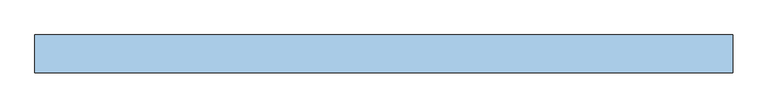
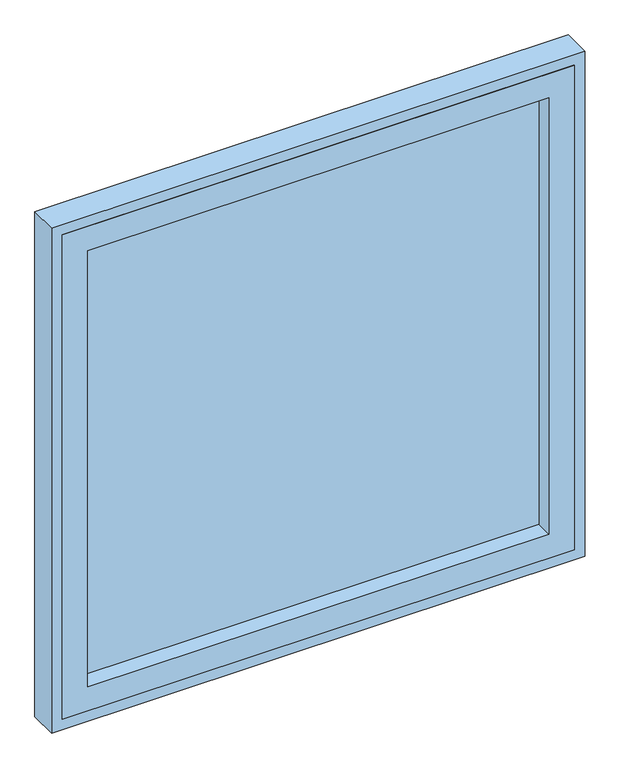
"""IFC4 building model written with IfcOpenShell, lengths in millimetres: window geometry, Окно.Alumark_одностворчатое_S54 : 960х960 (левое-откидное)."""

from ifc_helpers import new_model, si_unit, frame, origin, place, context, project, spatial, polyline, outline, extrude, source, transform, mapped, element, save


def window_48ecba2a(model_context):
    return source(origin(), model_context, "Body", "SweptSolid", [
        extrude(outline(polyline([(432.0, 78.0), (-432.0, 78.0), (-432.0, 91.0), (432.0, 91.0), (432.0, 78.0)])), frame((0.0, 0.0, 968.0), z_axis=(0.0, 0.0, 1.0), x_axis=(1.0, 0.0, 0.0)), (0.0, 0.0, 1.0), 864.0),
        extrude(outline(polyline([(1880.0, -480.0), (920.0, -480.0), (920.0, 480.0), (1880.0, 480.0), (1880.0, -480.0)]), holes=[polyline([(1832.0, 432.0), (968.0, 432.0), (968.0, -432.0), (1832.0, -432.0), (1832.0, 432.0)])]), frame((0.0, 46.0, 0.0), z_axis=(0.0, 1.0, 0.0), x_axis=(0.0, 0.0, 1.0)), (0.0, 0.0, 1.0), 54.0),
        extrude(outline(polyline([(1900.0, 500.0), (1900.0, -500.0), (900.0, -500.0), (900.0, 500.0), (1900.0, 500.0)]), holes=[polyline([(920.0, -480.0), (1880.0, -480.0), (1880.0, 480.0), (920.0, 480.0), (920.0, -480.0)])]), frame((0.0, 46.0, 0.0), z_axis=(0.0, 1.0, 0.0), x_axis=(0.0, 0.0, 1.0)), (0.0, 0.0, 1.0), 54.0),
    ])


if __name__ == "__main__":
    model = new_model("IFC4")
    model_context = context("Model", 3, world=origin())
    ifc_project = project(units=[si_unit("LENGTHUNIT", "METRE", prefix="MILLI")], contexts=[model_context])
    site = spatial("IfcSite", under=ifc_project)
    building = spatial("IfcBuilding", under=site)
    placement = place(None, origin())
    window_shape = window_48ecba2a(model_context)
    element("IfcWindow", 1, ObjectType="Окно.Alumark_одностворчатое_S54 : 960х960 (левое-откидное)", at=placement, inside=building, context=model_context, shape_type="MappedRepresentation", body=[
        mapped(window_shape, transform((0.0, 0.0, 0.0), x_axis=(1.0, 0.0, 0.0), y_axis=(0.0, 1.0, 0.0), z_axis=(0.0, 0.0, 1.0))),
    ])
    save(model, "model.ifc")
